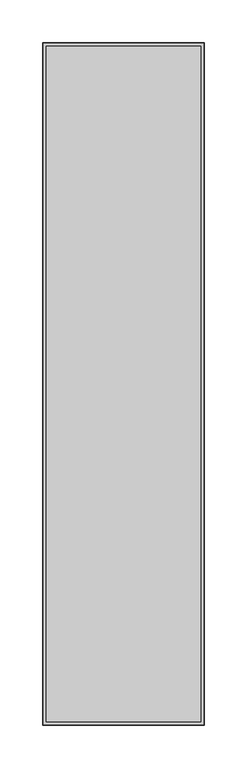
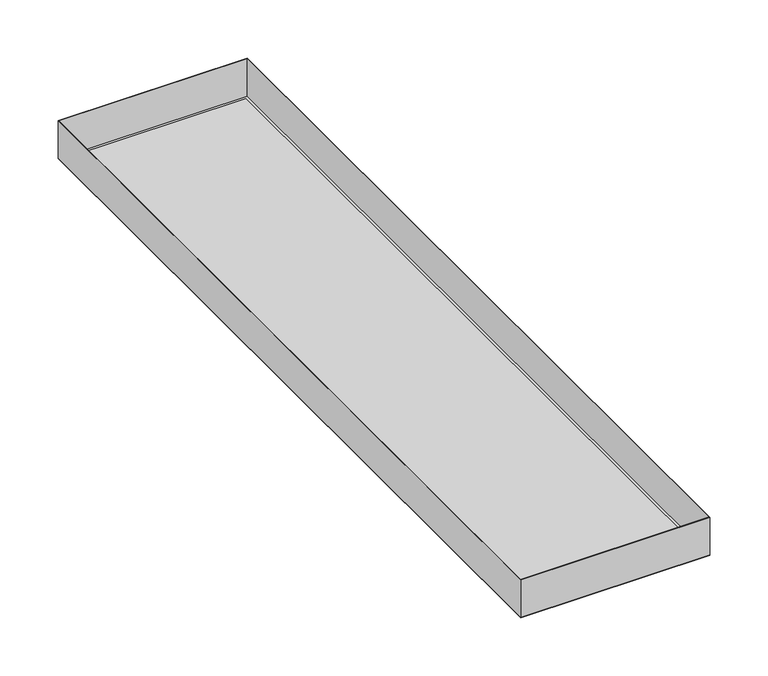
"""IFC4 building model written with IfcOpenShell, lengths in millimetres: proxy geometry, durlum_S7_panel : durlum_S7_panel_wall_corner."""

from ifc_helpers import new_model, si_unit, frame, origin, origin_with_axes, place, context, project, spatial, polyline, outline, extrude, source, transform, mapped, element, save


def generic_models_3838b954(model_context):
    return source(origin(), model_context, "Body", "SweptSolid", [
        extrude(outline(polyline([(94.0, 397.75), (94.0, -397.75), (-94.0, -397.75), (-94.0, 397.75), (94.0, 397.75)]), holes=[polyline([(93.4, 397.15), (-93.4, 397.15), (-93.4, -397.15), (93.4, -397.15), (93.4, 397.15)])]), frame((0.0, 0.0, 0.6), z_axis=(0.0, 0.0, 1.0), x_axis=(1.0, 0.0, 0.0)), (0.0, 0.0, 1.0), 39.4),
        extrude(outline(polyline([(90.0, 393.75), (90.0, -393.75), (-90.0, -393.75), (-90.0, 393.75), (90.0, 393.75)])), frame((0.0, 0.0, 0.6), z_axis=(0.0, 0.0, 1.0), x_axis=(1.0, 0.0, 0.0)), (0.0, 0.0, 1.0), 0.6),
        extrude(outline(polyline([(94.0, 397.75), (94.0, -397.75), (-94.0, -397.75), (-94.0, 397.75), (94.0, 397.75)]), holes=[polyline([(90.0, 393.75), (-90.0, 393.75), (-90.0, -393.75), (90.0, -393.75), (90.0, 393.75)])]), origin_with_axes(), (0.0, 0.0, 1.0), 0.6),
        extrude(outline(polyline([(90.0, 393.75), (90.0, -393.75), (-90.0, -393.75), (-90.0, 393.75), (90.0, 393.75)])), origin_with_axes(), (0.0, 0.0, 1.0), 0.6),
    ])


if __name__ == "__main__":
    model = new_model("IFC4")
    model_context = context("Model", 3, world=origin())
    ifc_project = project(units=[si_unit("LENGTHUNIT", "METRE", prefix="MILLI")], contexts=[model_context])
    site = spatial("IfcSite", under=ifc_project)
    building = spatial("IfcBuilding", under=site)
    placement = place(None, origin())
    generic_models_shape = generic_models_3838b954(model_context)
    element("IfcBuildingElementProxy", 1, Name="durlum_S7_panel : durlum_S7_panel_wall_corner", ObjectType="durlum_S7_panel : durlum_S7_panel_wall_corner", at=placement, inside=building, context=model_context, shape_type="MappedRepresentation", body=[
        mapped(generic_models_shape, transform((0.0, 0.0, 0.0), x_axis=(1.0, 0.0, 0.0), y_axis=(0.0, 1.0, 0.0), z_axis=(0.0, 0.0, 1.0))),
    ])
    save(model, "model.ifc")
